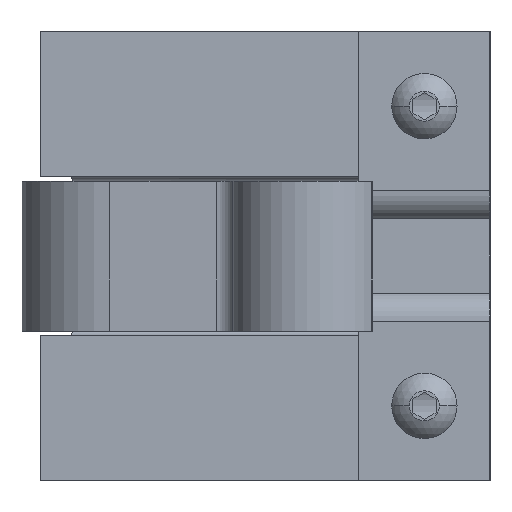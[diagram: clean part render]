
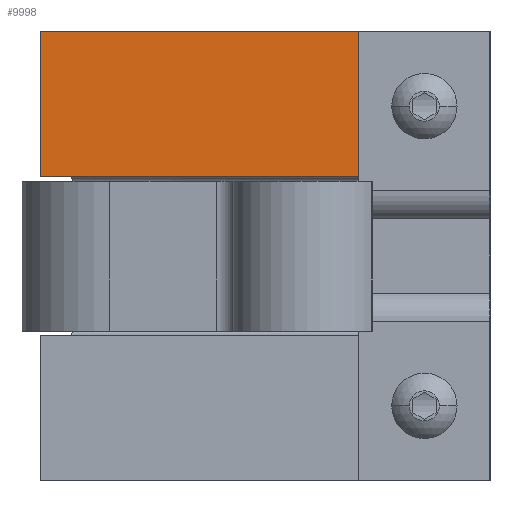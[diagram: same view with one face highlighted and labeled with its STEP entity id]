
A CAD part, left-side view. The second image highlights one B-rep face of the part: STEP entity #9998.
In plain terms, the highlighted planar face has unit normal (-1, 0, 0).
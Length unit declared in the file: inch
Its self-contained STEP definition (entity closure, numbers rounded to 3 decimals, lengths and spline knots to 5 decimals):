
#3793 = DIRECTION ( 'NONE',  ( 0., 0., 1. ) ) ;
#3794 = VECTOR ( 'NONE', #3793, 39.37008 ) ;
#3795 = CARTESIAN_POINT ( 'NONE',  ( -2.232, 1.3791, -1.29544 ) ) ;
#3796 = LINE ( 'NONE', #3795, #3794 ) ;
#3798 = CARTESIAN_POINT ( 'NONE',  ( -2.232, 1.3791, 1.70456 ) ) ;
#3799 = DIRECTION ( 'NONE',  ( 0., -1., 0. ) ) ;
#3800 = VECTOR ( 'NONE', #3799, 39.37008 ) ;
#3801 = CARTESIAN_POINT ( 'NONE',  ( -2.232, -1.6209, 1.70456 ) ) ;
#3802 = LINE ( 'NONE', #3801, #3800 ) ;
#3803 = CARTESIAN_POINT ( 'NONE',  ( -2.232, -1.6209, 1.70456 ) ) ;
#3804 = DIRECTION ( 'NONE',  ( 0., 0., 1. ) ) ;
#3805 = VECTOR ( 'NONE', #3804, 39.37008 ) ;
#3806 = CARTESIAN_POINT ( 'NONE',  ( -2.232, -1.6209, -1.29544 ) ) ;
#3807 = LINE ( 'NONE', #3806, #3805 ) ;
#3808 = CARTESIAN_POINT ( 'NONE',  ( -2.232, 1.3791, 0.73456 ) ) ;
#3809 = CARTESIAN_POINT ( 'NONE',  ( -2.232, -1.6209, 0.73456 ) ) ;
#3810 = DIRECTION ( 'NONE',  ( 0., 1., 0. ) ) ;
#3811 = VECTOR ( 'NONE', #3810, 39.37008 ) ;
#3812 = CARTESIAN_POINT ( 'NONE',  ( -2.232, -1.6209, 0.73456 ) ) ;
#3813 = LINE ( 'NONE', #3812, #3811 ) ;
#4403 = DIRECTION ( 'NONE',  ( 0., 0., 1. ) ) ;
#4404 = DIRECTION ( 'NONE',  ( -1., 0., 0. ) ) ;
#4405 = CARTESIAN_POINT ( 'NONE',  ( -2.232, -1.1829, 1.20456 ) ) ;
#4406 = AXIS2_PLACEMENT_3D ( 'NONE', #4405, #4404, #4403 ) ;
#4407 = CIRCLE ( 'NONE', #4406, 0.125 ) ;
#4408 = CARTESIAN_POINT ( 'NONE',  ( -2.232, -1.1829, 1.07956 ) ) ;
#4409 = CARTESIAN_POINT ( 'NONE',  ( -2.232, -1.1829, 1.32956 ) ) ;
#4410 = DIRECTION ( 'NONE',  ( 0., 0., 1. ) ) ;
#4411 = DIRECTION ( 'NONE',  ( -1., 0., 0. ) ) ;
#4412 = CARTESIAN_POINT ( 'NONE',  ( -2.232, -1.1829, 1.20456 ) ) ;
#4413 = AXIS2_PLACEMENT_3D ( 'NONE', #4412, #4411, #4410 ) ;
#4414 = DIRECTION ( 'NONE',  ( 0., 0., 1. ) ) ;
#4415 = DIRECTION ( 'NONE',  ( -1., 0., 0. ) ) ;
#4416 = CARTESIAN_POINT ( 'NONE',  ( -2.232, -1.6209, -1.29544 ) ) ;
#4417 = AXIS2_PLACEMENT_3D ( 'NONE', #4416, #4415, #4414 ) ;
#4418 = CIRCLE ( 'NONE', #4413, 0.125 ) ;
#4419 = PLANE ( 'NONE',  #4417 ) ;
#4469 = FACE_BOUND ( 'NONE', #9999, .T. ) ;
#4472 = FACE_OUTER_BOUND ( 'NONE', #10006, .T. ) ;
#9891 = ORIENTED_EDGE ( 'NONE', *, *, #9892, .F. ) ;
#9892 = EDGE_CURVE ( 'NONE', #9893, #9894, #3813, .T. ) ;
#9893 = VERTEX_POINT ( 'NONE', #3809 ) ;
#9894 = VERTEX_POINT ( 'NONE', #3808 ) ;
#9895 = ORIENTED_EDGE ( 'NONE', *, *, #9896, .T. ) ;
#9896 = EDGE_CURVE ( 'NONE', #9893, #9897, #3807, .T. ) ;
#9897 = VERTEX_POINT ( 'NONE', #3803 ) ;
#9898 = ORIENTED_EDGE ( 'NONE', *, *, #9899, .F. ) ;
#9899 = EDGE_CURVE ( 'NONE', #9900, #9897, #3802, .T. ) ;
#9900 = VERTEX_POINT ( 'NONE', #3798 ) ;
#9901 = ORIENTED_EDGE ( 'NONE', *, *, #9902, .F. ) ;
#9902 = EDGE_CURVE ( 'NONE', #9894, #9900, #3796, .T. ) ;
#9998 = ADVANCED_FACE ( 'NONE', ( #4469, #4472 ), #4419, .T. ) ;
#9999 = EDGE_LOOP ( 'NONE', ( #10000, #10004 ) ) ;
#10000 = ORIENTED_EDGE ( 'NONE', *, *, #10001, .F. ) ;
#10001 = EDGE_CURVE ( 'NONE', #10002, #10003, #4418, .T. ) ;
#10002 = VERTEX_POINT ( 'NONE', #4409 ) ;
#10003 = VERTEX_POINT ( 'NONE', #4408 ) ;
#10004 = ORIENTED_EDGE ( 'NONE', *, *, #10005, .F. ) ;
#10005 = EDGE_CURVE ( 'NONE', #10003, #10002, #4407, .T. ) ;
#10006 = EDGE_LOOP ( 'NONE', ( #9891, #9895, #9898, #9901 ) ) ;
